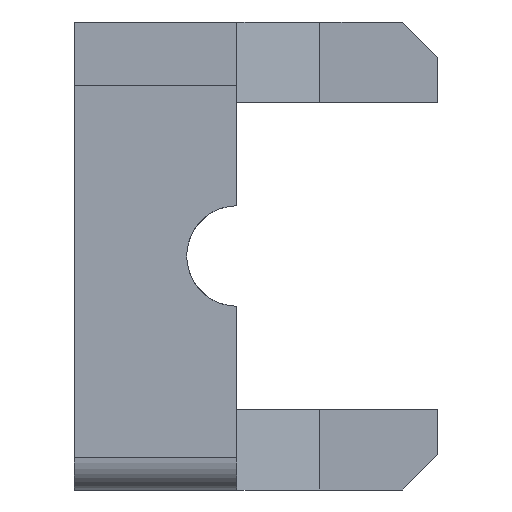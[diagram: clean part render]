
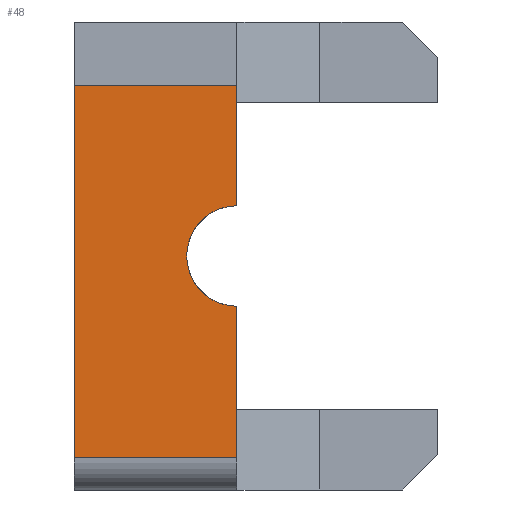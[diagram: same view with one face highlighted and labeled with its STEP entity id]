
A CAD part, front view. The second image highlights one B-rep face of the part: STEP entity #48.
In plain terms, the highlighted planar face has unit normal (0, -1, 0).
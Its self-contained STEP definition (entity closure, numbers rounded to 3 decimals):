
#48 = ADVANCED_FACE ( 'NONE', ( #1795 ), #2007, .T. ) ;
#438 = VERTEX_POINT ( 'NONE', #3450 ) ;
#525 = DIRECTION ( 'NONE',  ( 0., 0., -1. ) ) ;
#735 = ORIENTED_EDGE ( 'NONE', *, *, #3821, .F. ) ;
#765 = CIRCLE ( 'NONE', #3127, 5. ) ;
#1166 = EDGE_CURVE ( 'NONE', #3485, #1416, #2468, .T. ) ;
#1169 = CARTESIAN_POINT ( 'NONE',  ( 0., -89.912, -15.299 ) ) ;
#1225 = DIRECTION ( 'NONE',  ( 0., 1., 0. ) ) ;
#1416 = VERTEX_POINT ( 'NONE', #1595 ) ;
#1459 = VERTEX_POINT ( 'NONE', #2923 ) ;
#1595 = CARTESIAN_POINT ( 'NONE',  ( 0., -89.912, 1.701 ) ) ;
#1766 = EDGE_LOOP ( 'NONE', ( #3117, #3927, #3314, #3644, #2778, #735 ) ) ;
#1795 = FACE_OUTER_BOUND ( 'NONE', #1766, .T. ) ;
#1962 = CARTESIAN_POINT ( 'NONE',  ( 0., -89.912, -35.35 ) ) ;
#2007 = PLANE ( 'NONE',  #3540 ) ;
#2025 = VERTEX_POINT ( 'NONE', #4971 ) ;
#2292 = VECTOR ( 'NONE', #4673, 1000. ) ;
#2349 = DIRECTION ( 'NONE',  ( 0., 0., -1. ) ) ;
#2412 = CARTESIAN_POINT ( 'NONE',  ( 0., -89.912, -10.299 ) ) ;
#2468 = LINE ( 'NONE', #4783, #4267 ) ;
#2478 = DIRECTION ( 'NONE',  ( 0., 0., 1. ) ) ;
#2621 = DIRECTION ( 'NONE',  ( 0., 0., 1. ) ) ;
#2778 = ORIENTED_EDGE ( 'NONE', *, *, #1166, .T. ) ;
#2863 = LINE ( 'NONE', #4277, #4679 ) ;
#2923 = CARTESIAN_POINT ( 'NONE',  ( -16.2, -89.912, -35.35 ) ) ;
#2939 = EDGE_CURVE ( 'NONE', #2964, #1459, #2863, .T. ) ;
#2964 = VERTEX_POINT ( 'NONE', #3302 ) ;
#3117 = ORIENTED_EDGE ( 'NONE', *, *, #2939, .T. ) ;
#3125 = CARTESIAN_POINT ( 'NONE',  ( 0., -89.912, -15.299 ) ) ;
#3127 = AXIS2_PLACEMENT_3D ( 'NONE', #1169, #1225, #2349 ) ;
#3136 = DIRECTION ( 'NONE',  ( 0., -1., 0. ) ) ;
#3302 = CARTESIAN_POINT ( 'NONE',  ( -16.2, -89.912, 1.701 ) ) ;
#3314 = ORIENTED_EDGE ( 'NONE', *, *, #3700, .T. ) ;
#3398 = CARTESIAN_POINT ( 'NONE',  ( 0., -89.912, 1.701 ) ) ;
#3450 = CARTESIAN_POINT ( 'NONE',  ( 0., -89.912, -20.299 ) ) ;
#3480 = VECTOR ( 'NONE', #4569, 1000. ) ;
#3485 = VERTEX_POINT ( 'NONE', #2412 ) ;
#3540 = AXIS2_PLACEMENT_3D ( 'NONE', #3125, #3136, #525 ) ;
#3644 = ORIENTED_EDGE ( 'NONE', *, *, #4902, .T. ) ;
#3646 = VECTOR ( 'NONE', #2621, 1000. ) ;
#3700 = EDGE_CURVE ( 'NONE', #2025, #438, #4805, .T. ) ;
#3821 = EDGE_CURVE ( 'NONE', #2964, #1416, #4330, .T. ) ;
#3927 = ORIENTED_EDGE ( 'NONE', *, *, #4007, .T. ) ;
#4007 = EDGE_CURVE ( 'NONE', #1459, #2025, #4938, .T. ) ;
#4267 = VECTOR ( 'NONE', #2478, 1000. ) ;
#4277 = CARTESIAN_POINT ( 'NONE',  ( -16.2, -89.912, 8. ) ) ;
#4330 = LINE ( 'NONE', #3398, #3480 ) ;
#4478 = CARTESIAN_POINT ( 'NONE',  ( 0., -89.912, -38.6 ) ) ;
#4569 = DIRECTION ( 'NONE',  ( 1., 0., 0. ) ) ;
#4673 = DIRECTION ( 'NONE',  ( 1., 0., 0. ) ) ;
#4675 = DIRECTION ( 'NONE',  ( 0., 0., -1. ) ) ;
#4679 = VECTOR ( 'NONE', #4675, 1000. ) ;
#4783 = CARTESIAN_POINT ( 'NONE',  ( 0., -89.912, -10.299 ) ) ;
#4805 = LINE ( 'NONE', #4478, #3646 ) ;
#4902 = EDGE_CURVE ( 'NONE', #438, #3485, #765, .T. ) ;
#4938 = LINE ( 'NONE', #1962, #2292 ) ;
#4971 = CARTESIAN_POINT ( 'NONE',  ( 0., -89.912, -35.35 ) ) ;
